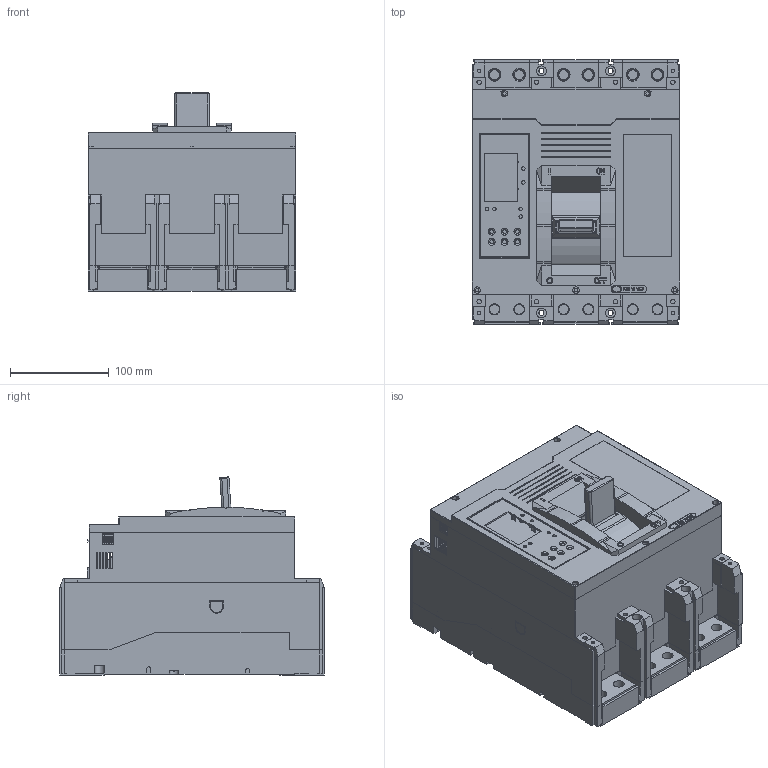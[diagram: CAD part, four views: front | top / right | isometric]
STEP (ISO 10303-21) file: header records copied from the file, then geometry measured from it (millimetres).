
FILE_DESCRIPTION (( 'STEP AP214' ), '1' );
FILE_NAME ('PRO.KVANT_S1-1600S,H–3P 2.STEP', '2024-10-09T04:05:41', ( '' ), ( '' ), 'SwSTEP 2.0', 'SolidWorks 2018', '' );
FILE_SCHEMA (( 'AUTOMOTIVE_DESIGN' ));
Length unit declared in the file: millimetre
Products named in the file (1): PRO.KVANT_S1-1600S,H–3P 2
Bounding box: 210 x 268 x 200.49 mm (x, y, z)
Volume: 2413533.5 mm3; surface area: 1116761.8 mm2
Topology: 40 solids, 41 shells, 6141 faces, 17482 edges, 11587 vertices
Faces by surface type: plane 5077, cylinder 917, bspline 69, cone 55, torus 15, sphere 8
Full cylindrical faces by diameter (mm): 1 x8, 2 x1, 2.4 x15, 2.5 x3, 2.6 x2, 3 x3, 3.4 x1, 3.5 x23, 4 x35, 4.2 x10, 4.3 x1, 4.5 x10, 4.8 x6, 5 x29, 5.2 x14, 5.4 x12, 6 x23, 6.2 x6, 6.4 x12, 6.5 x5, 7 x4, 7.6 x1, 7.7 x14, 8 x7, 8.2 x14, 8.5 x6, 9 x2, 10 x22, 11 x13, 11.5 x1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
Entity records: 265370 total; most frequent: CARTESIAN_POINT 37938, ORIENTED_EDGE 33858, DIRECTION 30700, EDGE_CURVE 16929, VECTOR 14494, LINE 14494, VERTEX_POINT 11449, AXIS2_PLACEMENT_3D 8103
